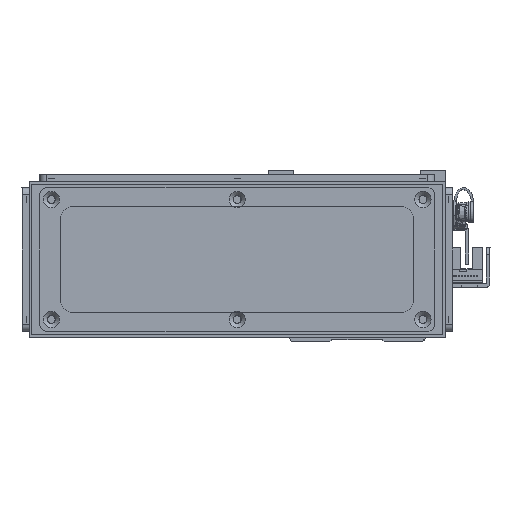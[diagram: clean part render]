
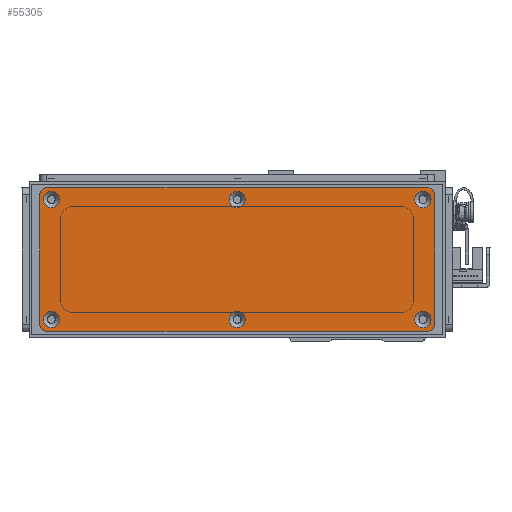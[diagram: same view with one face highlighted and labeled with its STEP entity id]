
A CAD part, left-side view. The second image highlights one B-rep face of the part: STEP entity #55305.
In plain terms, the highlighted planar face has unit normal (-1, 0, 0) as drawn and (0, 0, 1) by its records, which use the part's own axes.
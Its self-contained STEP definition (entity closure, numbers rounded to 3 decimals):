
#1071=FACE_BOUND('',#9508,.T.);
#1072=FACE_BOUND('',#9509,.T.);
#1073=FACE_BOUND('',#9510,.T.);
#1074=FACE_BOUND('',#9511,.T.);
#1075=FACE_BOUND('',#9512,.T.);
#1076=FACE_BOUND('',#9513,.T.);
#3042=PLANE('',#59512);
#6235=FACE_OUTER_BOUND('',#9507,.T.);
#9507=EDGE_LOOP('',(#50126,#50127,#50128,#50129,#50130,#50131,#50132,#50133));
#9508=EDGE_LOOP('',(#50134));
#9509=EDGE_LOOP('',(#50135));
#9510=EDGE_LOOP('',(#50136));
#9511=EDGE_LOOP('',(#50137));
#9512=EDGE_LOOP('',(#50138));
#9513=EDGE_LOOP('',(#50139));
#15716=LINE('',#89135,#22005);
#15719=LINE('',#89143,#22008);
#15722=LINE('',#89151,#22011);
#15725=LINE('',#89158,#22014);
#22005=VECTOR('',#72559,10.);
#22008=VECTOR('',#72568,10.);
#22011=VECTOR('',#72577,10.);
#22014=VECTOR('',#72586,10.);
#23640=CIRCLE('',#59466,3.45);
#23643=CIRCLE('',#59471,3.45);
#23646=CIRCLE('',#59476,3.45);
#23649=CIRCLE('',#59481,3.45);
#23652=CIRCLE('',#59486,3.45);
#23655=CIRCLE('',#59491,3.45);
#23662=CIRCLE('',#59501,3.);
#23663=CIRCLE('',#59504,3.);
#23664=CIRCLE('',#59507,3.);
#23665=CIRCLE('',#59510,3.);
#28449=VERTEX_POINT('',#89051);
#28452=VERTEX_POINT('',#89061);
#28455=VERTEX_POINT('',#89071);
#28458=VERTEX_POINT('',#89081);
#28461=VERTEX_POINT('',#89091);
#28464=VERTEX_POINT('',#89101);
#28475=VERTEX_POINT('',#89128);
#28476=VERTEX_POINT('',#89130);
#28477=VERTEX_POINT('',#89134);
#28478=VERTEX_POINT('',#89138);
#28479=VERTEX_POINT('',#89142);
#28480=VERTEX_POINT('',#89146);
#28481=VERTEX_POINT('',#89150);
#28482=VERTEX_POINT('',#89154);
#35792=EDGE_CURVE('',#28449,#28449,#23640,.T.);
#35797=EDGE_CURVE('',#28452,#28452,#23643,.T.);
#35802=EDGE_CURVE('',#28455,#28455,#23646,.T.);
#35807=EDGE_CURVE('',#28458,#28458,#23649,.T.);
#35812=EDGE_CURVE('',#28461,#28461,#23652,.T.);
#35817=EDGE_CURVE('',#28464,#28464,#23655,.T.);
#35831=EDGE_CURVE('',#28476,#28475,#23662,.T.);
#35833=EDGE_CURVE('',#28477,#28476,#15716,.T.);
#35835=EDGE_CURVE('',#28478,#28477,#23663,.T.);
#35837=EDGE_CURVE('',#28479,#28478,#15719,.T.);
#35839=EDGE_CURVE('',#28480,#28479,#23664,.T.);
#35841=EDGE_CURVE('',#28481,#28480,#15722,.T.);
#35843=EDGE_CURVE('',#28482,#28481,#23665,.T.);
#35845=EDGE_CURVE('',#28475,#28482,#15725,.T.);
#50126=ORIENTED_EDGE('',*,*,#35845,.T.);
#50127=ORIENTED_EDGE('',*,*,#35843,.T.);
#50128=ORIENTED_EDGE('',*,*,#35841,.T.);
#50129=ORIENTED_EDGE('',*,*,#35839,.T.);
#50130=ORIENTED_EDGE('',*,*,#35837,.T.);
#50131=ORIENTED_EDGE('',*,*,#35835,.T.);
#50132=ORIENTED_EDGE('',*,*,#35833,.T.);
#50133=ORIENTED_EDGE('',*,*,#35831,.T.);
#50134=ORIENTED_EDGE('',*,*,#35792,.T.);
#50135=ORIENTED_EDGE('',*,*,#35797,.T.);
#50136=ORIENTED_EDGE('',*,*,#35802,.T.);
#50137=ORIENTED_EDGE('',*,*,#35807,.T.);
#50138=ORIENTED_EDGE('',*,*,#35812,.T.);
#50139=ORIENTED_EDGE('',*,*,#35817,.T.);
#55305=ADVANCED_FACE('',(#6235,#1071,#1072,#1073,#1074,#1075,#1076),#3042,
 .T.);
#59466=AXIS2_PLACEMENT_3D('',#89052,#72467,#72468);
#59471=AXIS2_PLACEMENT_3D('',#89062,#72479,#72480);
#59476=AXIS2_PLACEMENT_3D('',#89072,#72491,#72492);
#59481=AXIS2_PLACEMENT_3D('',#89082,#72503,#72504);
#59486=AXIS2_PLACEMENT_3D('',#89092,#72515,#72516);
#59491=AXIS2_PLACEMENT_3D('',#89102,#72527,#72528);
#59501=AXIS2_PLACEMENT_3D('',#89131,#72554,#72555);
#59504=AXIS2_PLACEMENT_3D('',#89139,#72563,#72564);
#59507=AXIS2_PLACEMENT_3D('',#89147,#72572,#72573);
#59510=AXIS2_PLACEMENT_3D('',#89155,#72581,#72582);
#59512=AXIS2_PLACEMENT_3D('',#89159,#72587,#72588);
#72467=DIRECTION('center_axis',(0.,0.,-1.));
#72468=DIRECTION('ref_axis',(1.,0.,0.));
#72479=DIRECTION('center_axis',(0.,0.,-1.));
#72480=DIRECTION('ref_axis',(1.,0.,0.));
#72491=DIRECTION('center_axis',(0.,0.,-1.));
#72492=DIRECTION('ref_axis',(1.,0.,0.));
#72503=DIRECTION('center_axis',(0.,0.,-1.));
#72504=DIRECTION('ref_axis',(1.,0.,0.));
#72515=DIRECTION('center_axis',(0.,0.,-1.));
#72516=DIRECTION('ref_axis',(1.,0.,0.));
#72527=DIRECTION('center_axis',(0.,0.,-1.));
#72528=DIRECTION('ref_axis',(1.,0.,0.));
#72554=DIRECTION('center_axis',(0.,0.,1.));
#72555=DIRECTION('ref_axis',(-1.,0.,0.));
#72559=DIRECTION('',(0.,1.,0.));
#72563=DIRECTION('center_axis',(0.,0.,1.));
#72564=DIRECTION('ref_axis',(0.,1.,0.));
#72568=DIRECTION('',(1.,0.,0.));
#72572=DIRECTION('center_axis',(0.,0.,1.));
#72573=DIRECTION('ref_axis',(1.,0.,0.));
#72577=DIRECTION('',(0.,-1.,0.));
#72581=DIRECTION('center_axis',(0.,0.,1.));
#72582=DIRECTION('ref_axis',(0.,-1.,0.));
#72586=DIRECTION('',(-1.,0.,0.));
#72587=DIRECTION('center_axis',(0.,0.,1.));
#72588=DIRECTION('ref_axis',(1.,0.,0.));
#89051=CARTESIAN_POINT('',(-3.45,25.5,1.5));
#89052=CARTESIAN_POINT('Origin',(0.,25.5,1.5));
#89061=CARTESIAN_POINT('',(75.55,-25.5,1.5));
#89062=CARTESIAN_POINT('Origin',(79.,-25.5,1.5));
#89071=CARTESIAN_POINT('',(-82.45,25.5,1.5));
#89072=CARTESIAN_POINT('Origin',(-79.,25.5,1.5));
#89081=CARTESIAN_POINT('',(75.55,25.5,1.5));
#89082=CARTESIAN_POINT('Origin',(79.,25.5,1.5));
#89091=CARTESIAN_POINT('',(-82.45,-25.5,1.5));
#89092=CARTESIAN_POINT('Origin',(-79.,-25.5,1.5));
#89101=CARTESIAN_POINT('',(-3.45,-25.5,1.5));
#89102=CARTESIAN_POINT('Origin',(0.,-25.5,1.5));
#89128=CARTESIAN_POINT('',(81.,30.5,1.5));
#89130=CARTESIAN_POINT('',(84.,27.5,1.5));
#89131=CARTESIAN_POINT('Origin',(81.,27.5,1.5));
#89134=CARTESIAN_POINT('',(84.,-27.5,1.5));
#89135=CARTESIAN_POINT('',(84.,27.5,1.5));
#89138=CARTESIAN_POINT('',(81.,-30.5,1.5));
#89139=CARTESIAN_POINT('Origin',(81.,-27.5,1.5));
#89142=CARTESIAN_POINT('',(-81.,-30.5,1.5));
#89143=CARTESIAN_POINT('',(81.,-30.5,1.5));
#89146=CARTESIAN_POINT('',(-84.,-27.5,1.5));
#89147=CARTESIAN_POINT('Origin',(-81.,-27.5,1.5));
#89150=CARTESIAN_POINT('',(-84.,27.5,1.5));
#89151=CARTESIAN_POINT('',(-84.,-27.5,1.5));
#89154=CARTESIAN_POINT('',(-81.,30.5,1.5));
#89155=CARTESIAN_POINT('Origin',(-81.,27.5,1.5));
#89158=CARTESIAN_POINT('',(-81.,30.5,1.5));
#89159=CARTESIAN_POINT('Origin',(0.,0.,
1.5));
